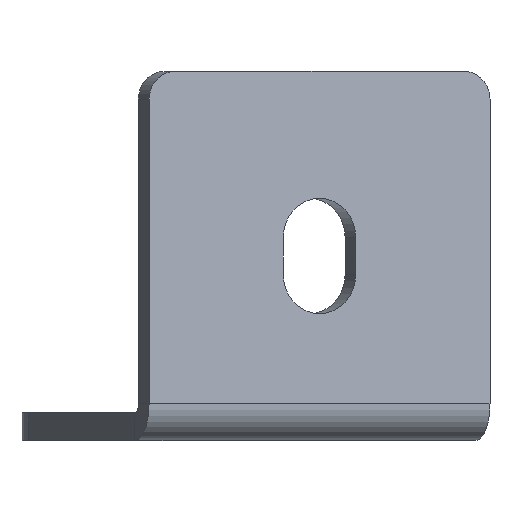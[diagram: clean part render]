
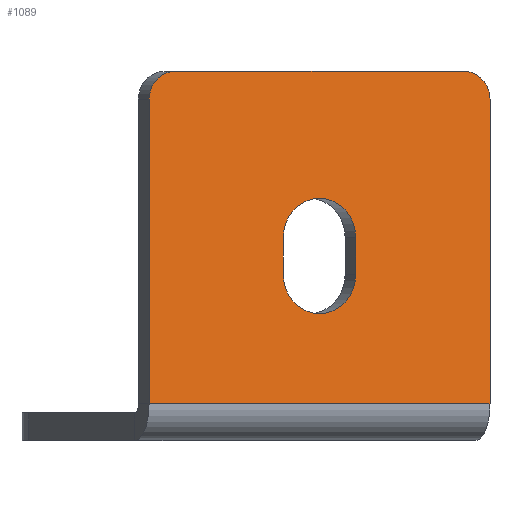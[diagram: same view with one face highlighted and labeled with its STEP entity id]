
A CAD part, left-side view. The second image highlights one B-rep face of the part: STEP entity #1089.
In plain terms, the highlighted planar face has unit normal (-0.924, -0.383, 0).
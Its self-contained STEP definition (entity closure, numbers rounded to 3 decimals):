
#8 = DIRECTION ( 'NONE',  ( 0.924, 0.383, 0. ) ) ;
#15 = DIRECTION ( 'NONE',  ( 0., 0., -1. ) ) ;
#28 = CARTESIAN_POINT ( 'NONE',  ( -15.307, 36.955, 40. ) ) ;
#48 = CARTESIAN_POINT ( 'NONE',  ( -7.654, 18.478, 22. ) ) ;
#62 = CARTESIAN_POINT ( 'NONE',  ( -6.027, 14.551, 18. ) ) ;
#69 = VERTEX_POINT ( 'NONE', #1119 ) ;
#117 = DIRECTION ( 'NONE',  ( 0., 0., 1. ) ) ;
#121 = AXIS2_PLACEMENT_3D ( 'NONE', #545, #8, #633 ) ;
#135 = LINE ( 'NONE', #745, #817 ) ;
#136 = DIRECTION ( 'NONE',  ( 0.383, -0.924, 0. ) ) ;
#144 = VERTEX_POINT ( 'NONE', #152 ) ;
#149 = AXIS2_PLACEMENT_3D ( 'NONE', #905, #365, #992 ) ;
#152 = CARTESIAN_POINT ( 'NONE',  ( 0., 0., 37. ) ) ;
#168 = FACE_OUTER_BOUND ( 'NONE', #910, .T. ) ;
#185 = CARTESIAN_POINT ( 'NONE',  ( -6.027, 14.551, 22. ) ) ;
#186 = CARTESIAN_POINT ( 'NONE',  ( -1.148, 2.772, 37. ) ) ;
#208 = VERTEX_POINT ( 'NONE', #388 ) ;
#229 = CIRCLE ( 'NONE', #121, 3. ) ;
#249 = EDGE_LOOP ( 'NONE', ( #392, #431, #794, #741 ) ) ;
#262 = DIRECTION ( 'NONE',  ( -0.383, 0.924, 0. ) ) ;
#280 = DIRECTION ( 'NONE',  ( 0.383, -0.924, 0. ) ) ;
#290 = PLANE ( 'NONE',  #845 ) ;
#332 = ORIENTED_EDGE ( 'NONE', *, *, #902, .F. ) ;
#335 = LINE ( 'NONE', #744, #778 ) ;
#355 = VERTEX_POINT ( 'NONE', #412 ) ;
#365 = DIRECTION ( 'NONE',  ( -0.924, -0.383, 0. ) ) ;
#368 = CARTESIAN_POINT ( 'NONE',  ( -14.159, 34.184, 40. ) ) ;
#379 = DIRECTION ( 'NONE',  ( -0.924, -0.383, 0. ) ) ;
#384 = AXIS2_PLACEMENT_3D ( 'NONE', #186, #819, #280 ) ;
#388 = CARTESIAN_POINT ( 'NONE',  ( -1.148, 2.772, 40. ) ) ;
#392 = ORIENTED_EDGE ( 'NONE', *, *, #562, .F. ) ;
#401 = EDGE_CURVE ( 'NONE', #774, #961, #989, .T. ) ;
#412 = CARTESIAN_POINT ( 'NONE',  ( -15.307, 36.955, 4. ) ) ;
#416 = CARTESIAN_POINT ( 'NONE',  ( -15.307, 36.955, 37. ) ) ;
#431 = ORIENTED_EDGE ( 'NONE', *, *, #734, .F. ) ;
#437 = LINE ( 'NONE', #1086, #1091 ) ;
#446 = ORIENTED_EDGE ( 'NONE', *, *, #1143, .T. ) ;
#447 = CARTESIAN_POINT ( 'NONE',  ( -9.28, 22.404, 22. ) ) ;
#450 = CIRCLE ( 'NONE', #384, 3. ) ;
#517 = ORIENTED_EDGE ( 'NONE', *, *, #780, .F. ) ;
#520 = VERTEX_POINT ( 'NONE', #62 ) ;
#545 = CARTESIAN_POINT ( 'NONE',  ( -14.159, 34.184, 37. ) ) ;
#548 = VECTOR ( 'NONE', #262, 1000. ) ;
#562 = EDGE_CURVE ( 'NONE', #520, #774, #135, .T. ) ;
#576 = CARTESIAN_POINT ( 'NONE',  ( -9.28, 22.404, 40. ) ) ;
#581 = VECTOR ( 'NONE', #746, 1000. ) ;
#584 = EDGE_CURVE ( 'NONE', #961, #69, #587, .T. ) ;
#587 = LINE ( 'NONE', #576, #1036 ) ;
#632 = VERTEX_POINT ( 'NONE', #1025 ) ;
#633 = DIRECTION ( 'NONE',  ( 0.383, -0.924, 0. ) ) ;
#648 = ORIENTED_EDGE ( 'NONE', *, *, #869, .T. ) ;
#655 = DIRECTION ( 'NONE',  ( -0.383, 0.924, 0. ) ) ;
#677 = DIRECTION ( 'NONE',  ( -0.924, -0.383, 0. ) ) ;
#708 = VERTEX_POINT ( 'NONE', #416 ) ;
#734 = EDGE_CURVE ( 'NONE', #69, #520, #1098, .T. ) ;
#741 = ORIENTED_EDGE ( 'NONE', *, *, #401, .F. ) ;
#744 = CARTESIAN_POINT ( 'NONE',  ( -15.307, 36.955, 40. ) ) ;
#745 = CARTESIAN_POINT ( 'NONE',  ( -6.027, 14.551, 40. ) ) ;
#746 = DIRECTION ( 'NONE',  ( 0., 0., -1. ) ) ;
#774 = VERTEX_POINT ( 'NONE', #185 ) ;
#778 = VECTOR ( 'NONE', #655, 1000. ) ;
#780 = EDGE_CURVE ( 'NONE', #208, #144, #450, .T. ) ;
#794 = ORIENTED_EDGE ( 'NONE', *, *, #584, .F. ) ;
#812 = LINE ( 'NONE', #931, #548 ) ;
#817 = VECTOR ( 'NONE', #117, 1000. ) ;
#819 = DIRECTION ( 'NONE',  ( 0.924, 0.383, 0. ) ) ;
#845 = AXIS2_PLACEMENT_3D ( 'NONE', #1001, #379, #1008 ) ;
#865 = FACE_BOUND ( 'NONE', #249, .T. ) ;
#869 = EDGE_CURVE ( 'NONE', #708, #355, #881, .T. ) ;
#881 = LINE ( 'NONE', #28, #581 ) ;
#891 = ORIENTED_EDGE ( 'NONE', *, *, #996, .F. ) ;
#902 = EDGE_CURVE ( 'NONE', #632, #355, #812, .T. ) ;
#905 = CARTESIAN_POINT ( 'NONE',  ( -7.654, 18.478, 18. ) ) ;
#910 = EDGE_LOOP ( 'NONE', ( #1014, #517, #446, #891, #648, #332 ) ) ;
#931 = CARTESIAN_POINT ( 'NONE',  ( -15.307, 36.955, 4. ) ) ;
#961 = VERTEX_POINT ( 'NONE', #447 ) ;
#989 = CIRCLE ( 'NONE', #1035, 4.25 ) ;
#992 = DIRECTION ( 'NONE',  ( 0.383, -0.924, 0. ) ) ;
#996 = EDGE_CURVE ( 'NONE', #708, #1005, #229, .T. ) ;
#1001 = CARTESIAN_POINT ( 'NONE',  ( -15.307, 36.955, 40. ) ) ;
#1005 = VERTEX_POINT ( 'NONE', #368 ) ;
#1008 = DIRECTION ( 'NONE',  ( 0.383, -0.924, 0. ) ) ;
#1014 = ORIENTED_EDGE ( 'NONE', *, *, #1047, .F. ) ;
#1025 = CARTESIAN_POINT ( 'NONE',  ( 0., 0., 4. ) ) ;
#1035 = AXIS2_PLACEMENT_3D ( 'NONE', #48, #677, #136 ) ;
#1036 = VECTOR ( 'NONE', #1104, 1000. ) ;
#1047 = EDGE_CURVE ( 'NONE', #144, #632, #437, .T. ) ;
#1086 = CARTESIAN_POINT ( 'NONE',  ( 0., 0., 40. ) ) ;
#1089 = ADVANCED_FACE ( 'NONE', ( #865, #168 ), #290, .T. ) ;
#1091 = VECTOR ( 'NONE', #15, 1000. ) ;
#1098 = CIRCLE ( 'NONE', #149, 4.25 ) ;
#1104 = DIRECTION ( 'NONE',  ( 0., 0., -1. ) ) ;
#1119 = CARTESIAN_POINT ( 'NONE',  ( -9.28, 22.404, 18. ) ) ;
#1143 = EDGE_CURVE ( 'NONE', #208, #1005, #335, .T. ) ;
